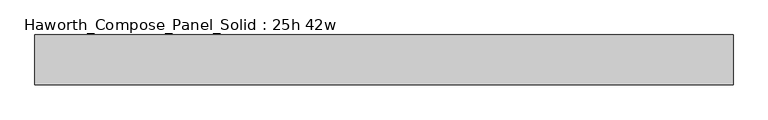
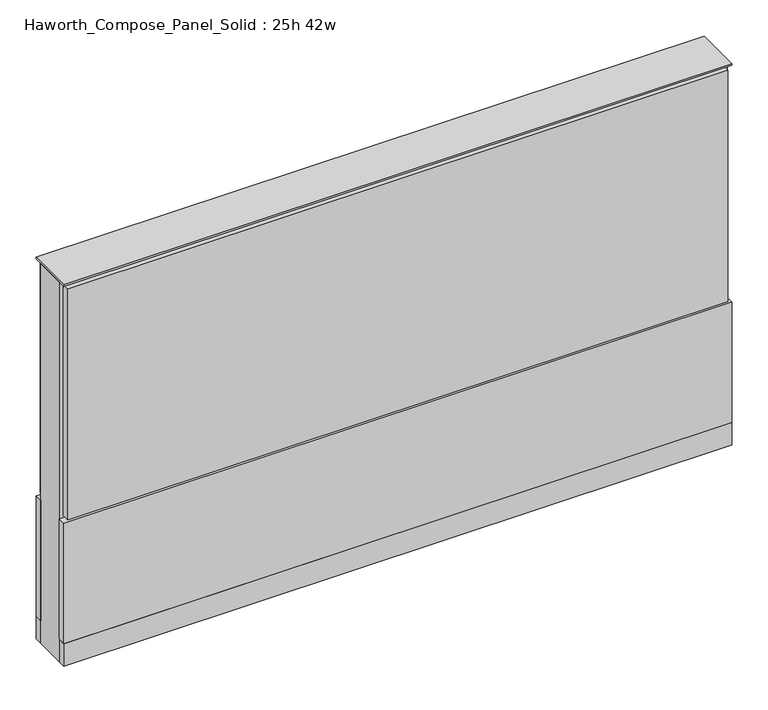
"""IFC4 building model written with IfcOpenShell, lengths in millimetres: furniture geometry, Haworth_Compose_Panel_Solid : 25h 42w."""

import ifcopenshell
import ifcopenshell.guid

model = None  # the IFC model being written
_history = None  # IfcOwnerHistory: only IFC2X3 demands one
_inside = {}  # id of a spatial element -> (the spatial element, [elements in it])
_under = {}  # id of a project, library or spatial element -> (it, [spatial elements below it])
_declared = {}  # id of a project -> (the project, [libraries it declares])
_typed = {}  # id of a type object -> (the type object, [elements of that type])
_made_of = {}  # id of a material, layer set ... -> (it, [elements and type objects made of it])


def new_model(schema):
    """Start an empty IFC model of exactly this schema.

    Asked for "IFC4X3", IfcOpenShell would pick the latest addendum, in which some entities
    have other attributes; the version numbers below select the first issue.
    IFC2X3 requires an IfcOwnerHistory on every rooted entity: one is made here for all.
    """
    global model, _history
    if schema == "IFC4X3":
        model = ifcopenshell.file(schema_version=(4, 3, 0, 0))
    else:
        model = ifcopenshell.file(schema=schema)
    _inside.clear()
    _under.clear()
    _declared.clear()
    _typed.clear()
    _made_of.clear()
    _history = None
    if model.schema == "IFC2X3":
        org = make("IfcOrganization", Name="unknown")
        user = make(
            "IfcPersonAndOrganization",
            ThePerson=make("IfcPerson", FamilyName="unknown"),
            TheOrganization=org,
        )
        app = make(
            "IfcApplication",
            ApplicationDeveloper=org,
            Version="unknown",
            ApplicationFullName="unknown",
            ApplicationIdentifier="unknown",
        )
        _history = make(
            "IfcOwnerHistory",
            OwningUser=user,
            OwningApplication=app,
            ChangeAction="ADDED",
            CreationDate=0,
        )
    return model


def make(cls, **values):
    """One entity of the class cls with the attributes given. An attribute that is None is left unset."""
    return model.create_entity(
        cls, **{name: value for name, value in values.items() if value is not None}
    )


def rooted(cls, **values):
    """An entity with a GlobalId (a new one), such as an element, a storey or a relation."""
    return make(cls, GlobalId=ifcopenshell.guid.new(), OwnerHistory=_history, **values)


def si_unit(unit_type, name, prefix=None):
    """IfcSIUnit, for example si_unit("LENGTHUNIT", "METRE", prefix="MILLI")."""
    return make("IfcSIUnit", UnitType=unit_type, Prefix=prefix, Name=name)


def assignment(units):
    """IfcUnitAssignment: the units of a project."""
    return None if units is None else make("IfcUnitAssignment", Units=units)


def point(xyz):
    """IfcCartesianPoint."""
    return None if xyz is None else make("IfcCartesianPoint", Coordinates=xyz)


def direction(xyz):
    """IfcDirection."""
    return None if xyz is None else make("IfcDirection", DirectionRatios=xyz)


def frame(location, z_axis=None, x_axis=None):
    """IfcAxis2Placement3D, a coordinate frame: its origin and axes. An axis left out is left unset."""
    return make(
        "IfcAxis2Placement3D",
        Location=point(location),
        Axis=direction(z_axis),
        RefDirection=direction(x_axis),
    )


def frame_2d(location, x_axis=None):
    """IfcAxis2Placement2D, a coordinate frame in the plane: its origin and x axis."""
    return make(
        "IfcAxis2Placement2D", Location=point(location), RefDirection=direction(x_axis)
    )


def origin():
    """The frame at (0, 0, 0) with its axes left unset."""
    return frame((0.0, 0.0, 0.0))


def origin_with_axes():
    """The frame at (0, 0, 0) with the z axis (0, 0, 1) and the x axis (1, 0, 0) written out."""
    return frame((0.0, 0.0, 0.0), z_axis=(0.0, 0.0, 1.0), x_axis=(1.0, 0.0, 0.0))


def place(relative_to, where):
    """IfcLocalPlacement: puts the frame where relative to a parent placement (None: the world)."""
    return make(
        "IfcLocalPlacement", PlacementRelTo=relative_to, RelativePlacement=where
    )


def context(
    kind, dimensions, precision=None, world=None, true_north=None, identifier=None
):
    """IfcGeometricRepresentationContext, for example the 3D "Model" context."""
    return make(
        "IfcGeometricRepresentationContext",
        ContextIdentifier=identifier,
        ContextType=kind,
        CoordinateSpaceDimension=dimensions,
        Precision=precision,
        WorldCoordinateSystem=world,
        TrueNorth=true_north,
    )


def project(units=None, contexts=None):
    """IfcProject with its units and contexts."""
    return rooted(
        "IfcProject",
        Name="project",
        RepresentationContexts=contexts,
        UnitsInContext=assignment(units),
    )


def spatial(cls, under=None, at=None, **own):
    """A site, building, storey or space (cls), placed at a placement, below another one or the project."""
    s = rooted(cls, ObjectPlacement=at, **own)
    if under is not None:
        _under.setdefault(under.id(), (under, []))[1].append(s)
    return s


def polyline(points):
    """IfcPolyline through the points."""
    return make("IfcPolyline", Points=[point(p) for p in points])


def circle_curve(where, radius):
    """IfcCircle in the frame where."""
    return make("IfcCircle", Position=where, Radius=radius)


def trimmed(basis, trim1, trim2, sense, master):
    """IfcTrimmedCurve: the piece of a basis curve between two trims."""
    return make(
        "IfcTrimmedCurve",
        BasisCurve=basis,
        Trim1=trim1,
        Trim2=trim2,
        SenseAgreement=sense,
        MasterRepresentation=master,
    )


def segment(curve, same_sense, transition):
    """IfcCompositeCurveSegment."""
    return make(
        "IfcCompositeCurveSegment",
        Transition=transition,
        SameSense=same_sense,
        ParentCurve=curve,
    )


def composite_curve(segments, self_intersect=None):
    """IfcCompositeCurve: segments joined end to end."""
    return make("IfcCompositeCurve", Segments=segments, SelfIntersect=self_intersect)


def outline(outer, holes=None, kind="AREA"):
    """IfcArbitraryClosedProfileDef: a profile drawn as a closed curve; with holes, ...WithVoids."""
    if holes is None:
        return make("IfcArbitraryClosedProfileDef", ProfileType=kind, OuterCurve=outer)
    return make(
        "IfcArbitraryProfileDefWithVoids",
        ProfileType=kind,
        OuterCurve=outer,
        InnerCurves=holes,
    )


def extrude(swept, where, along, depth):
    """IfcExtrudedAreaSolid: the profile swept, set in the frame where, extruded along a direction by depth."""
    return make(
        "IfcExtrudedAreaSolid",
        SweptArea=swept,
        Position=where,
        ExtrudedDirection=direction(along),
        Depth=depth,
    )


def shape(context_of_items, identifier, shape_type, items):
    """IfcShapeRepresentation: the items that make up one representation, for example the "Body"."""
    return make(
        "IfcShapeRepresentation",
        ContextOfItems=context_of_items,
        RepresentationIdentifier=identifier,
        RepresentationType=shape_type,
        Items=items,
    )


def source(mapping_origin, context_of_items, identifier, shape_type, items):
    """IfcRepresentationMap: a shape defined once, which mapped items show again and again."""
    return make(
        "IfcRepresentationMap",
        MappingOrigin=mapping_origin,
        MappedRepresentation=shape(context_of_items, identifier, shape_type, items),
    )


def transform(
    local_origin,
    x_axis=None,
    y_axis=None,
    z_axis=None,
    scale=None,
    scale2=None,
    scale3=None,
    uniform=True,
):
    """IfcCartesianTransformationOperator3D, or its non-uniform kind. x_axis, y_axis, z_axis: its Axis1, 2, 3."""
    if uniform:
        return make(
            "IfcCartesianTransformationOperator3D",
            Axis1=direction(x_axis),
            Axis2=direction(y_axis),
            LocalOrigin=point(local_origin),
            Scale=scale,
            Axis3=direction(z_axis),
        )
    return make(
        "IfcCartesianTransformationOperator3DnonUniform",
        Axis1=direction(x_axis),
        Axis2=direction(y_axis),
        LocalOrigin=point(local_origin),
        Scale=scale,
        Axis3=direction(z_axis),
        Scale2=scale2,
        Scale3=scale3,
    )


def mapped(mapping_source, mapping_target):
    """IfcMappedItem: shows the shape of a source again, moved by a transform."""
    return make(
        "IfcMappedItem", MappingSource=mapping_source, MappingTarget=mapping_target
    )


def made_of(thing, what):
    """Note that an element or type object is made of a material, layer set ...; save() writes the relation."""
    if what is not None:
        _made_of.setdefault(what.id(), (what, []))[1].append(thing)
    return thing


def element(
    cls,
    number,
    at=None,
    inside=None,
    cuts=None,
    type_object=None,
    material=None,
    context=None,
    identifier="Body",
    shape_type=None,
    held_by="IfcProductDefinitionShape",
    body=None,
    shapes=None,
    **own,
):
    """One element of the class cls, such as IfcWall. Its Tag is "e" and its number.

    at: its placement. inside: the storey or other place that contains it. cuts: it is an
    opening in that element (IfcRelVoidsElement). A single representation is given by context,
    identifier, shape_type and body (its items); several are given by shapes. held_by: the class
    of the entity that holds the representations. save() writes the other relations.
    """
    e = rooted(cls, Tag="e%d" % number, ObjectPlacement=at, **own)
    if body is not None:
        shapes = [shape(context, identifier, shape_type, body)]
    if shapes is not None:
        e.Representation = make(held_by, Representations=shapes)
    if inside is not None:
        _inside.setdefault(inside.id(), (inside, []))[1].append(e)
    if cuts is not None:
        rooted(
            "IfcRelVoidsElement", RelatingBuildingElement=cuts, RelatedOpeningElement=e
        )
    if type_object is not None:
        _typed.setdefault(type_object.id(), (type_object, []))[1].append(e)
    return made_of(e, material)


def aggregate(whole, parts):
    """IfcRelAggregates: a whole, such as a stair, and the parts it consists of."""
    return rooted("IfcRelAggregates", RelatingObject=whole, RelatedObjects=parts)


def save(model, path):
    """Write the relations noted so far, then the file.

    IfcRelAggregates (storeys below a building ...), IfcRelContainedInSpatialStructure (elements
    in a storey), IfcRelDefinesByType, IfcRelAssociatesMaterial and IfcRelDeclares: one each for
    every whole, place, type object, material and project.
    """
    for whole, parts in _under.values():
        aggregate(whole, parts)
    for where, things in _inside.values():
        rooted(
            "IfcRelContainedInSpatialStructure",
            RelatedElements=things,
            RelatingStructure=where,
        )
    for kind, things in _typed.values():
        rooted("IfcRelDefinesByType", RelatedObjects=things, RelatingType=kind)
    for what, things in _made_of.values():
        rooted("IfcRelAssociatesMaterial", RelatedObjects=things, RelatingMaterial=what)
    for by, libraries in _declared.values():
        rooted("IfcRelDeclares", RelatingContext=by, RelatedDefinitions=libraries)
    model.write(path)


def haworth_compose_panel_solid_25h_42w_ea7dca94(model_context):
    return source(origin(), model_context, "Body", "SweptSolid", [
        extrude(outline(composite_curve([segment(trimmed(circle_curve(frame_2d((-454.7597098, 0.0)), 12.7), [point((-467.4597098, 0.0))], [point((-442.0597098, 0.0))], False, "CARTESIAN"), True, "CONTINUOUS"), segment(trimmed(circle_curve(frame_2d((-454.7597098, 0.0)), 12.7), [point((-442.0597098, 0.0))], [point((-467.4597098, 0.0))], False, "CARTESIAN"), True, "CONTINUOUS")], self_intersect=False)), origin_with_axes(), (0.0, 0.0, 1.0), 12.7),
        extrude(outline(composite_curve([segment(trimmed(circle_curve(frame_2d((459.6402902, 0.0)), 12.7), [point((446.9402902, 0.0))], [point((472.3402902, 0.0))], False, "CARTESIAN"), True, "CONTINUOUS"), segment(trimmed(circle_curve(frame_2d((459.6402902, 0.0)), 12.7), [point((472.3402902, 0.0))], [point((446.9402902, 0.0))], False, "CARTESIAN"), True, "CONTINUOUS")], self_intersect=False)), origin_with_axes(), (0.0, 0.0, 1.0), 12.7),
        extrude(outline(polyline([(529.4902902, 38.1), (529.4902902, 25.4), (-524.6097098, 25.4), (-524.6097098, 38.1), (529.4902902, 38.1)])), frame((0.0, 0.0, 257.175), z_axis=(0.0, 0.0, 1.0), x_axis=(1.0, 0.0, 0.0)), (0.0, 0.0, 1.0), 390.525),
        extrude(outline(polyline([(535.8402902, 38.1), (535.8402902, 25.4), (-530.9597098, 25.4), (-530.9597098, 38.1), (535.8402902, 38.1)])), frame((0.0, 0.0, 50.8), z_axis=(0.0, 0.0, 1.0), x_axis=(1.0, 0.0, 0.0)), (0.0, 0.0, 1.0), 203.2),
        extrude(outline(polyline([(535.8402902, -38.1), (-530.9597098, -38.1), (-530.9597098, -25.4), (535.8402902, -25.4), (535.8402902, -38.1)])), frame((0.0, 0.0, 50.8), z_axis=(0.0, 0.0, 1.0), x_axis=(1.0, 0.0, 0.0)), (0.0, 0.0, 1.0), 203.2),
        extrude(outline(polyline([(529.4902902, -38.1), (-524.6097098, -38.1), (-524.6097098, -25.4), (529.4902902, -25.4), (529.4902902, -38.1)])), frame((0.0, 0.0, 257.175), z_axis=(0.0, 0.0, 1.0), x_axis=(1.0, 0.0, 0.0)), (0.0, 0.0, 1.0), 390.525),
        extrude(outline(polyline([(535.8402902, 25.4), (535.8402902, -25.4), (-530.9597098, -25.4), (-530.9597098, 25.4), (535.8402902, 25.4)])), frame((0.0, 0.0, 12.7), z_axis=(0.0, 0.0, 1.0), x_axis=(1.0, 0.0, 0.0)), (0.0, 0.0, 1.0), 641.35),
        extrude(outline(polyline([(-530.9597098, -38.1), (-530.9597098, 38.1), (535.8402902, 38.1), (535.8402902, -38.1), (-530.9597098, -38.1)])), frame((0.0, 0.0, 12.7), z_axis=(0.0, 0.0, 1.0), x_axis=(1.0, 0.0, 0.0)), (0.0, 0.0, 1.0), 38.1),
        extrude(outline(polyline([(-530.9597098, -38.1), (-530.9597098, 38.1), (535.8402902, 38.1), (535.8402902, -38.1), (-530.9597098, -38.1)])), frame((0.0, 0.0, 654.05), z_axis=(0.0, 0.0, 1.0), x_axis=(1.0, 0.0, 0.0)), (0.0, 0.0, 1.0), 3.175),
    ])


if __name__ == "__main__":
    model = new_model("IFC4")
    model_context = context("Model", 3, world=origin())
    ifc_project = project(units=[si_unit("LENGTHUNIT", "METRE", prefix="MILLI")], contexts=[model_context])
    site = spatial("IfcSite", under=ifc_project)
    building = spatial("IfcBuilding", under=site)
    placement = place(None, origin())
    haworth_compose_panel_solid_25h_42w_shape = haworth_compose_panel_solid_25h_42w_ea7dca94(model_context)
    element("IfcFurniture", 1, ObjectType="Haworth_Compose_Panel_Solid : 25h 42w", at=placement, inside=building, context=model_context, shape_type="MappedRepresentation", body=[
        mapped(haworth_compose_panel_solid_25h_42w_shape, transform((0.0, 0.0, 0.0), x_axis=(1.0, 0.0, 0.0), y_axis=(0.0, 1.0, 0.0), z_axis=(0.0, 0.0, 1.0))),
    ])
    save(model, "model.ifc")
